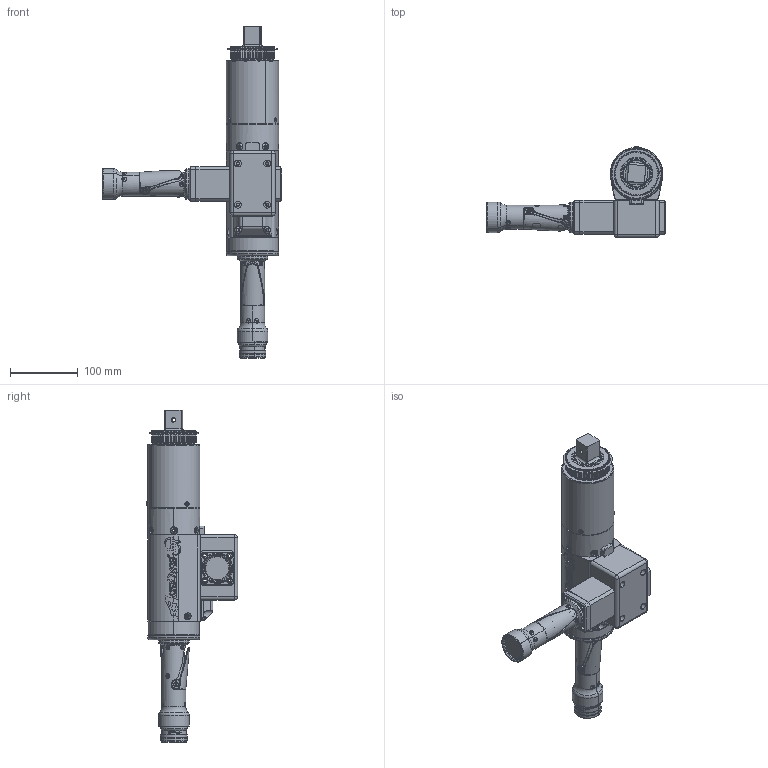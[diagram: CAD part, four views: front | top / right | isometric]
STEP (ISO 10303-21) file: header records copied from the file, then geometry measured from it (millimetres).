
FILE_DESCRIPTION (( 'STEP AP214' ), '1' );
FILE_NAME ('AES4B771000BDLR.STEP', '2022-07-15T18:59:45', ( '' ), ( '' ), 'SwSTEP 2.0', 'SolidWorks 2022', '' );
FILE_SCHEMA (( 'AUTOMOTIVE_DESIGN' ));
Length unit declared in the file: inch
Products named in the file (1): AES4B771000BDLR
Bounding box: 264.78 x 135.01 x 491.09 mm (x, y, z)
Surface area: 247210.7 mm2 (no closed solid volume)
Topology: 0 solids, 157 shells, 1633 faces, 6270 edges, 4556 vertices
Faces by surface type: cylinder 494, plane 469, bspline 228, cone 214, torus 214, sphere 14
Entity records: 150618 total; most frequent: CARTESIAN_POINT 82079, ORIENTED_EDGE 9377, DIRECTION 8682, EDGE_CURVE 6264, VERTEX_POINT 4556, AXIS2_PLACEMENT_3D 3273, LINE 2136, VECTOR 2136
